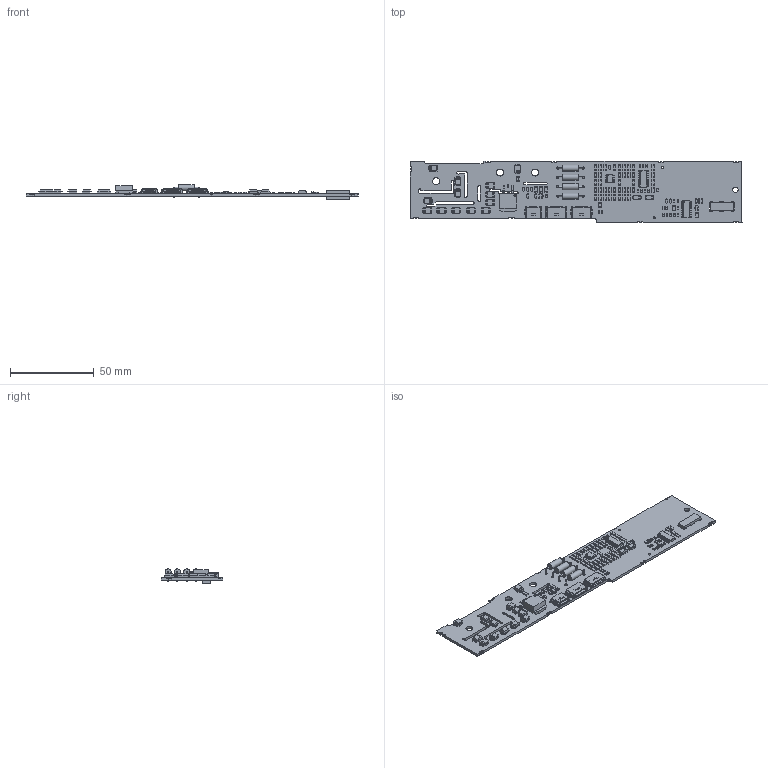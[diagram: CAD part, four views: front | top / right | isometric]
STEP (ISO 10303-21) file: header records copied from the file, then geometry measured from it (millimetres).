
FILE_DESCRIPTION(/* description */ ('Alibre Inc.'),/* implementation_level */ '2;1');
FILE_NAME(/* name */ 'export0',/* time_stamp */ '2015-03-05T09:52:32+01:00',/* author */ (''),/* organization */ (''),/* preprocessor_version */ 'ST-DEVELOPER v14',/* originating_system */ 'Alibre',/* authorisation */ '');
FILE_SCHEMA (('AUTOMOTIVE_DESIGN'));
Length unit declared in the file: millimetre
Bounding box: 198.12 x 36.96 x 8.51 mm (x, y, z)
Volume: 12911.1 mm3; surface area: 20748.1 mm2
Topology: 312 solids, 312 shells, 7357 faces, 18675 edges, 11659 vertices
Faces by surface type: plane 5328, cylinder 1617, bspline 388, cone 24
Full cylindrical faces by diameter (mm): 0.5 x1, 0.6 x24, 1 x2, 1.3 x10, 3.2 x1, 3.65 x4, 4.2 x3
Entity records: 88565 total; most frequent: CARTESIAN_POINT 16542, ORIENTED_EDGE 14388, DIRECTION 12301, EDGE_CURVE 7194, VECTOR 6201, LINE 6201, VERTEX_POINT 4709, AXIS2_PLACEMENT_3D 4116
